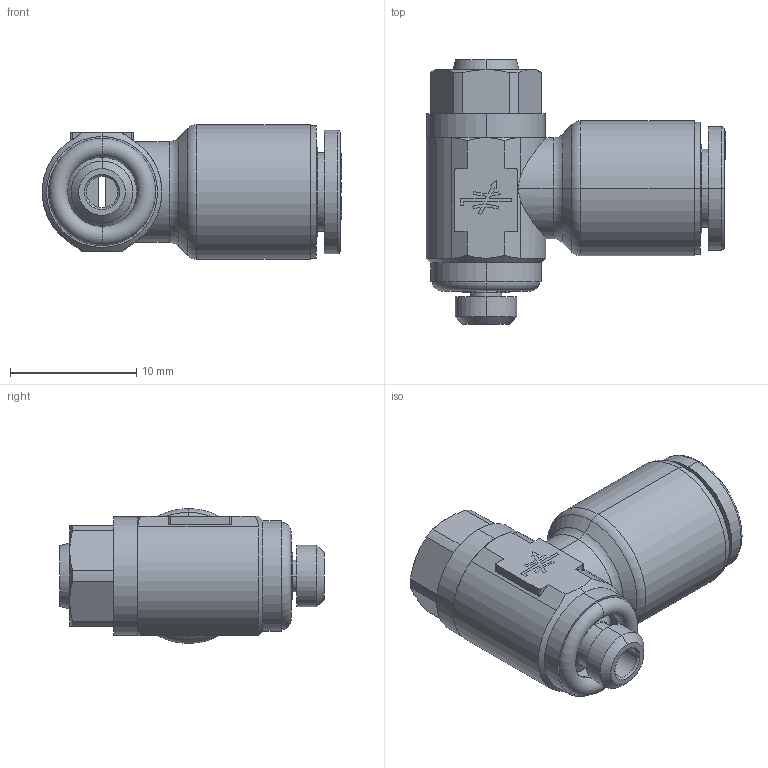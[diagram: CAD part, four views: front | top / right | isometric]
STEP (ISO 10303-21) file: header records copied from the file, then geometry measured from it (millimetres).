
FILE_DESCRIPTION (( 'STEP AP214' ), '1' );
FILE_NAME ('5692000002.STEP', '2016-05-23T07:30:16', ( '' ), ( '' ), 'SwSTEP 2.0', 'SolidWorks 2016', '' );
FILE_SCHEMA (( 'AUTOMOTIVE_DESIGN' ));
Length unit declared in the file: millimetre
Products named in the file (1): 5692000002
Bounding box: 23.73 x 21 x 10.7 mm (x, y, z)
Surface area: 1777.3 mm2 (no closed solid volume)
Topology: 0 solids, 15 shells, 258 faces, 858 edges, 591 vertices
Faces by surface type: plane 131, bspline 49, cylinder 40, cone 26, torus 12
Entity records: 13702 total; most frequent: CARTESIAN_POINT 3884, ORIENTED_EDGE 1455, DIRECTION 1231, EDGE_CURVE 858, VERTEX_POINT 591, LINE 517, VECTOR 517, AXIS2_PLACEMENT_3D 357
